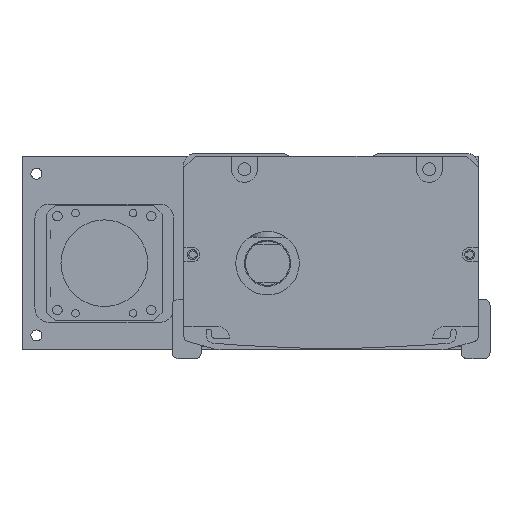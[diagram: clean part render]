
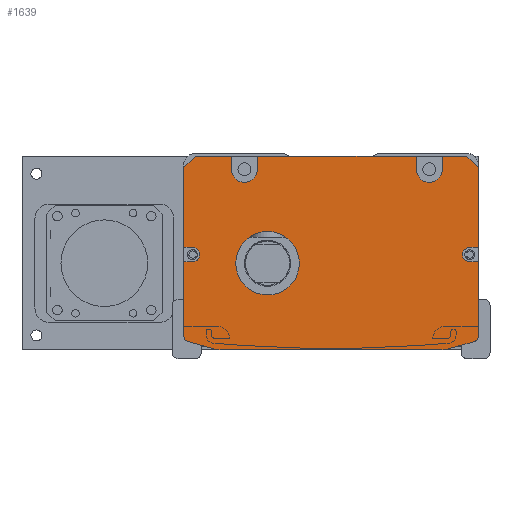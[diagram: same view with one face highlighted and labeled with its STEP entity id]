
A CAD part, front view. The second image highlights one B-rep face of the part: STEP entity #1639.
In plain terms, the highlighted planar face has unit normal (0, -1, 0).
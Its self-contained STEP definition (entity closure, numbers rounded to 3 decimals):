
#1639=ADVANCED_FACE('',(#4320,#4321),#2325,.F.);
#2325=PLANE('',#13699);
#2626=LINE('',#19072,#3429);
#2630=LINE('',#19080,#3433);
#2640=LINE('',#19101,#3443);
#2644=LINE('',#19109,#3447);
#2913=LINE('',#20102,#3716);
#2914=LINE('',#20104,#3717);
#2915=LINE('',#20106,#3718);
#2916=LINE('',#20110,#3719);
#2917=LINE('',#20112,#3720);
#2918=LINE('',#20114,#3721);
#2919=LINE('',#20118,#3722);
#2920=LINE('',#20120,#3723);
#2921=LINE('',#20122,#3724);
#2922=LINE('',#20123,#3725);
#2923=LINE('',#20127,#3726);
#2924=LINE('',#20130,#3727);
#2925=LINE('',#20134,#3728);
#2926=LINE('',#20138,#3729);
#2927=LINE('',#20141,#3730);
#2928=LINE('',#20145,#3731);
#3429=VECTOR('',#14969,1.);
#3433=VECTOR('',#14973,1.);
#3443=VECTOR('',#14985,1.);
#3447=VECTOR('',#14989,1.);
#3716=VECTOR('',#16054,1.);
#3717=VECTOR('',#16055,1.);
#3718=VECTOR('',#16056,1.);
#3719=VECTOR('',#16059,1.);
#3720=VECTOR('',#16060,1.);
#3721=VECTOR('',#16061,1.);
#3722=VECTOR('',#16064,1.);
#3723=VECTOR('',#16065,1.);
#3724=VECTOR('',#16066,1.);
#3725=VECTOR('',#16067,1.);
#3726=VECTOR('',#16070,1.);
#3727=VECTOR('',#16073,1.);
#3728=VECTOR('',#16076,1.);
#3729=VECTOR('',#16079,1.);
#3730=VECTOR('',#16082,1.);
#3731=VECTOR('',#16085,1.);
#4320=FACE_BOUND('',#5044,.T.);
#4321=FACE_BOUND('',#5045,.T.);
#5044=EDGE_LOOP('',(#6948,#6949,#6950,#6951,#6952,#6953,#6954,#6955,#6956,
#6957,#6958,#6959,#6960,#6961,#6962,#6963,#6964,#6965,#6966,#6967,#6968,
#6969,#6970,#6971,#6972,#6973,#6974,#6975));
#5045=EDGE_LOOP('',(#6976));
#6948=ORIENTED_EDGE('',*,*,#10872,.T.);
#6949=ORIENTED_EDGE('',*,*,#11356,.T.);
#6950=ORIENTED_EDGE('',*,*,#11357,.T.);
#6951=ORIENTED_EDGE('',*,*,#11358,.F.);
#6952=ORIENTED_EDGE('',*,*,#11359,.T.);
#6953=ORIENTED_EDGE('',*,*,#11360,.F.);
#6954=ORIENTED_EDGE('',*,*,#11361,.T.);
#6955=ORIENTED_EDGE('',*,*,#11362,.F.);
#6956=ORIENTED_EDGE('',*,*,#11363,.T.);
#6957=ORIENTED_EDGE('',*,*,#11364,.F.);
#6958=ORIENTED_EDGE('',*,*,#11365,.T.);
#6959=ORIENTED_EDGE('',*,*,#11366,.T.);
#6960=ORIENTED_EDGE('',*,*,#10890,.T.);
#6961=ORIENTED_EDGE('',*,*,#11367,.T.);
#6962=ORIENTED_EDGE('',*,*,#11368,.T.);
#6963=ORIENTED_EDGE('',*,*,#11369,.T.);
#6964=ORIENTED_EDGE('',*,*,#10886,.T.);
#6965=ORIENTED_EDGE('',*,*,#11370,.T.);
#6966=ORIENTED_EDGE('',*,*,#11371,.T.);
#6967=ORIENTED_EDGE('',*,*,#11372,.T.);
#6968=ORIENTED_EDGE('',*,*,#11373,.T.);
#6969=ORIENTED_EDGE('',*,*,#11374,.T.);
#6970=ORIENTED_EDGE('',*,*,#11375,.T.);
#6971=ORIENTED_EDGE('',*,*,#11376,.T.);
#6972=ORIENTED_EDGE('',*,*,#10876,.T.);
#6973=ORIENTED_EDGE('',*,*,#11377,.T.);
#6974=ORIENTED_EDGE('',*,*,#11378,.T.);
#6975=ORIENTED_EDGE('',*,*,#11379,.T.);
#6976=ORIENTED_EDGE('',*,*,#11380,.T.);
#9581=VERTEX_POINT('',#19071);
#9582=VERTEX_POINT('',#19073);
#9585=VERTEX_POINT('',#19079);
#9586=VERTEX_POINT('',#19081);
#9595=VERTEX_POINT('',#19100);
#9596=VERTEX_POINT('',#19102);
#9599=VERTEX_POINT('',#19108);
#9600=VERTEX_POINT('',#19110);
#9926=VERTEX_POINT('',#20103);
#9927=VERTEX_POINT('',#20105);
#9928=VERTEX_POINT('',#20107);
#9929=VERTEX_POINT('',#20109);
#9930=VERTEX_POINT('',#20111);
#9931=VERTEX_POINT('',#20113);
#9932=VERTEX_POINT('',#20115);
#9933=VERTEX_POINT('',#20117);
#9934=VERTEX_POINT('',#20119);
#9935=VERTEX_POINT('',#20121);
#9936=VERTEX_POINT('',#20124);
#9937=VERTEX_POINT('',#20126);
#9938=VERTEX_POINT('',#20129);
#9939=VERTEX_POINT('',#20131);
#9940=VERTEX_POINT('',#20133);
#9941=VERTEX_POINT('',#20135);
#9942=VERTEX_POINT('',#20137);
#9943=VERTEX_POINT('',#20139);
#9944=VERTEX_POINT('',#20142);
#9945=VERTEX_POINT('',#20144);
#9946=VERTEX_POINT('',#20147);
#10872=EDGE_CURVE('',#9582,#9581,#2626,.T.);
#10876=EDGE_CURVE('',#9586,#9585,#2630,.T.);
#10886=EDGE_CURVE('',#9596,#9595,#2640,.T.);
#10890=EDGE_CURVE('',#9600,#9599,#2644,.T.);
#11356=EDGE_CURVE('',#9581,#9926,#2913,.T.);
#11357=EDGE_CURVE('',#9926,#9927,#2914,.T.);
#11358=EDGE_CURVE('',#9928,#9927,#2915,.T.);
#11359=EDGE_CURVE('',#9928,#9929,#12760,.T.);
#11360=EDGE_CURVE('',#9930,#9929,#2916,.T.);
#11361=EDGE_CURVE('',#9930,#9931,#2917,.T.);
#11362=EDGE_CURVE('',#9932,#9931,#2918,.T.);
#11363=EDGE_CURVE('',#9932,#9933,#12761,.T.);
#11364=EDGE_CURVE('',#9934,#9933,#2919,.T.);
#11365=EDGE_CURVE('',#9934,#9935,#2920,.T.);
#11366=EDGE_CURVE('',#9935,#9600,#2921,.T.);
#11367=EDGE_CURVE('',#9599,#9936,#2922,.T.);
#11368=EDGE_CURVE('',#9936,#9937,#12762,.T.);
#11369=EDGE_CURVE('',#9937,#9596,#2923,.T.);
#11370=EDGE_CURVE('',#9595,#9938,#12763,.T.);
#11371=EDGE_CURVE('',#9938,#9939,#2924,.T.);
#11372=EDGE_CURVE('',#9939,#9940,#12764,.T.);
#11373=EDGE_CURVE('',#9940,#9941,#2925,.T.);
#11374=EDGE_CURVE('',#9941,#9942,#12765,.T.);
#11375=EDGE_CURVE('',#9942,#9943,#2926,.T.);
#11376=EDGE_CURVE('',#9943,#9586,#12766,.T.);
#11377=EDGE_CURVE('',#9585,#9944,#2927,.T.);
#11378=EDGE_CURVE('',#9944,#9945,#12767,.T.);
#11379=EDGE_CURVE('',#9945,#9582,#2928,.T.);
#11380=EDGE_CURVE('',#9946,#9946,#12768,.T.);
#12760=CIRCLE('',#13690,4.5);
#12761=CIRCLE('',#13691,4.5);
#12762=CIRCLE('',#13692,2.5);
#12763=CIRCLE('',#13693,2.);
#12764=CIRCLE('',#13694,10.);
#12765=CIRCLE('',#13695,10.);
#12766=CIRCLE('',#13696,2.);
#12767=CIRCLE('',#13697,2.5);
#12768=CIRCLE('',#13698,11.);
#13690=AXIS2_PLACEMENT_3D('',#20108,#16057,#16058);
#13691=AXIS2_PLACEMENT_3D('',#20116,#16062,#16063);
#13692=AXIS2_PLACEMENT_3D('',#20125,#16068,#16069);
#13693=AXIS2_PLACEMENT_3D('',#20128,#16071,#16072);
#13694=AXIS2_PLACEMENT_3D('',#20132,#16074,#16075);
#13695=AXIS2_PLACEMENT_3D('',#20136,#16077,#16078);
#13696=AXIS2_PLACEMENT_3D('',#20140,#16080,#16081);
#13697=AXIS2_PLACEMENT_3D('',#20143,#16083,#16084);
#13698=AXIS2_PLACEMENT_3D('',#20146,#16086,#16087);
#13699=AXIS2_PLACEMENT_3D('',#20148,#16088,#16089);
#14969=DIRECTION('',(0.,0.,1.));
#14973=DIRECTION('',(0.,0.,1.));
#14985=DIRECTION('',(0.,0.,-1.));
#14989=DIRECTION('',(0.,0.,-1.));
#16054=DIRECTION('',(-0.707,0.,0.707));
#16055=DIRECTION('',(-1.,0.,0.));
#16056=DIRECTION('',(0.,0.,1.));
#16057=DIRECTION('',(0.,1.,0.));
#16058=DIRECTION('',(0.,0.,1.));
#16059=DIRECTION('',(0.,0.,-1.));
#16060=DIRECTION('',(-1.,0.,0.));
#16061=DIRECTION('',(0.,0.,1.));
#16062=DIRECTION('',(0.,1.,0.));
#16063=DIRECTION('',(0.,0.,1.));
#16064=DIRECTION('',(0.,0.,-1.));
#16065=DIRECTION('',(-1.,0.,0.));
#16066=DIRECTION('',(-0.707,0.,-0.707));
#16067=DIRECTION('',(1.,0.,0.));
#16068=DIRECTION('',(0.,1.,0.));
#16069=DIRECTION('',(0.,0.,1.));
#16070=DIRECTION('',(-1.,0.,0.));
#16071=DIRECTION('',(0.,-1.,0.));
#16072=DIRECTION('',(0.,0.,1.));
#16073=DIRECTION('',(0.963,0.,-0.269));
#16074=DIRECTION('',(0.,-1.,0.));
#16075=DIRECTION('',(0.,0.,1.));
#16076=DIRECTION('',(1.,0.,0.));
#16077=DIRECTION('',(0.,-1.,0.));
#16078=DIRECTION('',(0.,0.,-1.));
#16079=DIRECTION('',(0.963,0.,0.269));
#16080=DIRECTION('',(0.,-1.,0.));
#16081=DIRECTION('',(0.,0.,-1.));
#16082=DIRECTION('',(-1.,0.,0.));
#16083=DIRECTION('',(0.,1.,0.));
#16084=DIRECTION('',(0.,0.,1.));
#16085=DIRECTION('',(1.,0.,0.));
#16086=DIRECTION('',(0.,1.,0.));
#16087=DIRECTION('',(0.,0.,1.));
#16088=DIRECTION('',(0.,1.,0.));
#16089=DIRECTION('',(1.,0.,0.));
#19071=CARTESIAN_POINT('',(47.808,-417.5,-5.));
#19072=CARTESIAN_POINT('',(47.808,-417.5,-1.));
#19073=CARTESIAN_POINT('',(47.808,-417.5,-32.5));
#19079=CARTESIAN_POINT('',(47.808,-417.5,-37.5));
#19080=CARTESIAN_POINT('',(47.808,-417.5,-1.));
#19081=CARTESIAN_POINT('',(47.808,-417.5,-63.212));
#19100=CARTESIAN_POINT('',(-54.192,-417.5,-63.212));
#19101=CARTESIAN_POINT('',(-54.192,-417.5,-62.));
#19102=CARTESIAN_POINT('',(-54.192,-417.5,-37.5));
#19108=CARTESIAN_POINT('',(-54.192,-417.5,-32.5));
#19109=CARTESIAN_POINT('',(-54.192,-417.5,-62.));
#19110=CARTESIAN_POINT('',(-54.192,-417.5,-5.));
#20102=CARTESIAN_POINT('',(43.808,-417.5,-1.));
#20103=CARTESIAN_POINT('',(43.808,-417.5,-1.));
#20104=CARTESIAN_POINT('',(-3.192,-417.5,-1.));
#20105=CARTESIAN_POINT('',(35.308,-417.5,-1.));
#20106=CARTESIAN_POINT('',(35.308,-417.5,-1.));
#20107=CARTESIAN_POINT('',(35.308,-417.5,-5.5));
#20108=CARTESIAN_POINT('',(30.808,-417.5,-5.5));
#20109=CARTESIAN_POINT('',(26.308,-417.5,-5.5));
#20110=CARTESIAN_POINT('',(26.308,-417.5,-1.));
#20111=CARTESIAN_POINT('',(26.308,-417.5,-1.));
#20112=CARTESIAN_POINT('',(-54.192,-417.5,-1.));
#20113=CARTESIAN_POINT('',(-28.692,-417.5,-1.));
#20114=CARTESIAN_POINT('',(-28.692,-417.5,-3.5));
#20115=CARTESIAN_POINT('',(-28.692,-417.5,-5.5));
#20116=CARTESIAN_POINT('',(-33.192,-417.5,-5.5));
#20117=CARTESIAN_POINT('',(-37.692,-417.5,-5.5));
#20118=CARTESIAN_POINT('',(-37.692,-417.5,-1.));
#20119=CARTESIAN_POINT('',(-37.692,-417.5,-1.));
#20120=CARTESIAN_POINT('',(-54.192,-417.5,-1.));
#20121=CARTESIAN_POINT('',(-50.192,-417.5,-1.));
#20122=CARTESIAN_POINT('',(-54.192,-417.5,-5.));
#20123=CARTESIAN_POINT('',(-3.192,-417.5,-32.5));
#20124=CARTESIAN_POINT('',(-51.192,-417.5,-32.5));
#20125=CARTESIAN_POINT('',(-51.192,-417.5,-35.));
#20126=CARTESIAN_POINT('',(-51.192,-417.5,-37.5));
#20127=CARTESIAN_POINT('',(-3.192,-417.5,-37.5));
#20128=CARTESIAN_POINT('',(-52.192,-417.5,-63.212));
#20129=CARTESIAN_POINT('',(-52.731,-417.5,-65.138));
#20130=CARTESIAN_POINT('',(-55.807,-417.5,-64.279));
#20131=CARTESIAN_POINT('',(-43.809,-417.5,-67.631));
#20132=CARTESIAN_POINT('',(-41.118,-417.5,-58.));
#20133=CARTESIAN_POINT('',(-41.118,-417.5,-68.));
#20134=CARTESIAN_POINT('',(-54.692,-417.5,-68.));
#20135=CARTESIAN_POINT('',(34.733,-417.5,-68.));
#20136=CARTESIAN_POINT('',(34.733,-417.5,-58.));
#20137=CARTESIAN_POINT('',(37.424,-417.5,-67.631));
#20138=CARTESIAN_POINT('',(49.422,-417.5,-64.279));
#20139=CARTESIAN_POINT('',(46.346,-417.5,-65.138));
#20140=CARTESIAN_POINT('',(45.808,-417.5,-63.212));
#20141=CARTESIAN_POINT('',(-3.192,-417.5,-37.5));
#20142=CARTESIAN_POINT('',(44.808,-417.5,-37.5));
#20143=CARTESIAN_POINT('',(44.808,-417.5,-35.));
#20144=CARTESIAN_POINT('',(44.808,-417.5,-32.5));
#20145=CARTESIAN_POINT('',(-3.192,-417.5,-32.5));
#20146=CARTESIAN_POINT('',(-25.192,-417.5,-38.));
#20147=CARTESIAN_POINT('',(-25.192,-417.5,-27.));
#20148=CARTESIAN_POINT('',(-3.192,-417.5,-1.));
